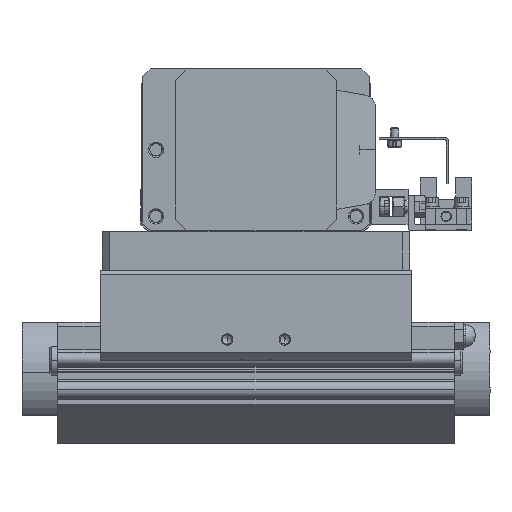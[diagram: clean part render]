
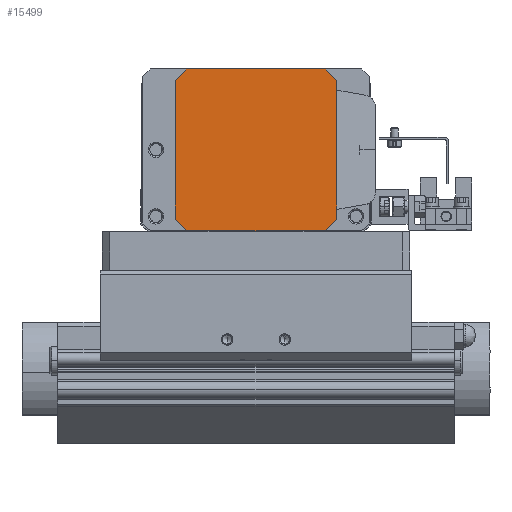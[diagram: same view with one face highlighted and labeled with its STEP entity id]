
A CAD part, front view. The second image highlights one B-rep face of the part: STEP entity #15499.
In plain terms, the highlighted planar face has unit normal (0, -1, 0) as drawn and (-1, 0, 0) by its records, which use the part's own axes.
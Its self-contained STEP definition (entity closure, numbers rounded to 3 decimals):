
#104 = LINE ( 'NONE', #49552, #49404 ) ;
#653 = ORIENTED_EDGE ( 'NONE', *, *, #2377, .F. ) ;
#781 = CARTESIAN_POINT ( 'NONE',  ( 0., -18., 21. ) ) ;
#987 = VECTOR ( 'NONE', #11265, 1000. ) ;
#1064 = EDGE_CURVE ( 'NONE', #61635, #37352, #48421, .T. ) ;
#1259 = DIRECTION ( 'NONE',  ( 0., 0., -1. ) ) ;
#2377 = EDGE_CURVE ( 'NONE', #37352, #31610, #60883, .T. ) ;
#6515 = EDGE_CURVE ( 'NONE', #51707, #61635, #12300, .T. ) ;
#8351 = CARTESIAN_POINT ( 'NONE',  ( 0., -18., -21. ) ) ;
#8803 = VERTEX_POINT ( 'NONE', #38224 ) ;
#10199 = VECTOR ( 'NONE', #1259, 1000. ) ;
#10274 = VERTEX_POINT ( 'NONE', #23311 ) ;
#11265 = DIRECTION ( 'NONE',  ( 0., -1., 0. ) ) ;
#12300 = LINE ( 'NONE', #34182, #21003 ) ;
#13290 = ORIENTED_EDGE ( 'NONE', *, *, #1064, .F. ) ;
#13743 = EDGE_CURVE ( 'NONE', #10274, #65333, #17211, .T. ) ;
#13978 = EDGE_CURVE ( 'NONE', #8803, #41631, #64797, .T. ) ;
#15499 = ADVANCED_FACE ( 'NONE', ( #24649 ), #60808, .F. ) ;
#15860 = CARTESIAN_POINT ( 'NONE',  ( 0., -18., 21. ) ) ;
#17211 = LINE ( 'NONE', #40361, #10199 ) ;
#17260 = CARTESIAN_POINT ( 'NONE',  ( 0., -21., -18. ) ) ;
#17599 = ORIENTED_EDGE ( 'NONE', *, *, #35023, .F. ) ;
#18437 = CARTESIAN_POINT ( 'NONE',  ( 0., -18.9, -21. ) ) ;
#18518 = ORIENTED_EDGE ( 'NONE', *, *, #34791, .F. ) ;
#21003 = VECTOR ( 'NONE', #24093, 1000. ) ;
#23311 = CARTESIAN_POINT ( 'NONE',  ( 0., -21., 18. ) ) ;
#24093 = DIRECTION ( 'NONE',  ( 0., 0., 1. ) ) ;
#24649 = FACE_OUTER_BOUND ( 'NONE', #27073, .T. ) ;
#25293 = VECTOR ( 'NONE', #47323, 1000. ) ;
#25498 = VECTOR ( 'NONE', #47667, 1000. ) ;
#26138 = ORIENTED_EDGE ( 'NONE', *, *, #42652, .F. ) ;
#26574 = ORIENTED_EDGE ( 'NONE', *, *, #6515, .F. ) ;
#26973 = CARTESIAN_POINT ( 'NONE',  ( 0., -22.05, 21. ) ) ;
#27073 = EDGE_LOOP ( 'NONE', ( #69679, #17599, #653, #13290, #26574, #18518, #73092, #26138 ) ) ;
#30026 = DIRECTION ( 'NONE',  ( 0., -1., 0. ) ) ;
#31610 = VERTEX_POINT ( 'NONE', #15860 ) ;
#32942 = DIRECTION ( 'NONE',  ( 1., 0., 0. ) ) ;
#34001 = VECTOR ( 'NONE', #39649, 1000. ) ;
#34182 = CARTESIAN_POINT ( 'NONE',  ( 0., 21., 22.05 ) ) ;
#34791 = EDGE_CURVE ( 'NONE', #8803, #51707, #40305, .T. ) ;
#35023 = EDGE_CURVE ( 'NONE', #31610, #10274, #52564, .T. ) ;
#36728 = CARTESIAN_POINT ( 'NONE',  ( 0., 18., 21. ) ) ;
#37352 = VERTEX_POINT ( 'NONE', #36728 ) ;
#38224 = CARTESIAN_POINT ( 'NONE',  ( 0., 18., -21. ) ) ;
#39649 = DIRECTION ( 'NONE',  ( 0., -0.707, -0.707 ) ) ;
#40305 = LINE ( 'NONE', #41701, #25293 ) ;
#40361 = CARTESIAN_POINT ( 'NONE',  ( 0., -21., 22.05 ) ) ;
#41631 = VERTEX_POINT ( 'NONE', #8351 ) ;
#41701 = CARTESIAN_POINT ( 'NONE',  ( 0., 18., -21. ) ) ;
#42652 = EDGE_CURVE ( 'NONE', #65333, #41631, #104, .T. ) ;
#42767 = CARTESIAN_POINT ( 'NONE',  ( 0., 21., 18. ) ) ;
#43135 = AXIS2_PLACEMENT_3D ( 'NONE', #60574, #32942, #71675 ) ;
#47323 = DIRECTION ( 'NONE',  ( 0., 0.707, 0.707 ) ) ;
#47667 = DIRECTION ( 'NONE',  ( 0., -0.707, 0.707 ) ) ;
#48421 = LINE ( 'NONE', #42767, #25498 ) ;
#49050 = DIRECTION ( 'NONE',  ( 0., 0.707, -0.707 ) ) ;
#49404 = VECTOR ( 'NONE', #49050, 1000. ) ;
#49552 = CARTESIAN_POINT ( 'NONE',  ( 0., -21., -18. ) ) ;
#51707 = VERTEX_POINT ( 'NONE', #63068 ) ;
#52564 = LINE ( 'NONE', #781, #34001 ) ;
#55955 = VECTOR ( 'NONE', #30026, 1000. ) ;
#56234 = CARTESIAN_POINT ( 'NONE',  ( 0., 21., 18. ) ) ;
#60574 = CARTESIAN_POINT ( 'NONE',  ( 0., -22.05, 22.05 ) ) ;
#60808 = PLANE ( 'NONE',  #43135 ) ;
#60883 = LINE ( 'NONE', #26973, #987 ) ;
#61635 = VERTEX_POINT ( 'NONE', #56234 ) ;
#63068 = CARTESIAN_POINT ( 'NONE',  ( 0., 21., -18. ) ) ;
#64797 = LINE ( 'NONE', #18437, #55955 ) ;
#65333 = VERTEX_POINT ( 'NONE', #17260 ) ;
#69679 = ORIENTED_EDGE ( 'NONE', *, *, #13743, .F. ) ;
#71675 = DIRECTION ( 'NONE',  ( 0., 0., -1. ) ) ;
#73092 = ORIENTED_EDGE ( 'NONE', *, *, #13978, .T. ) ;
